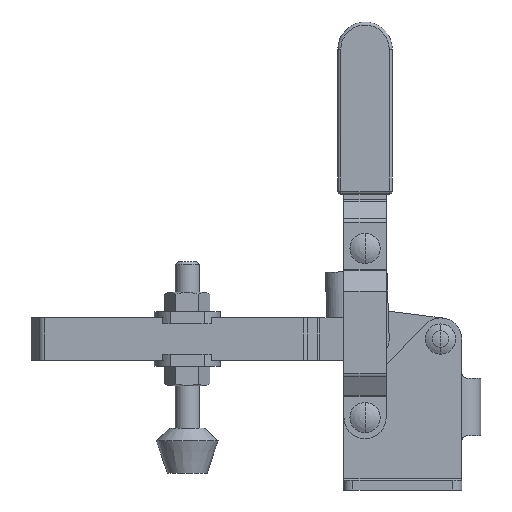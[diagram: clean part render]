
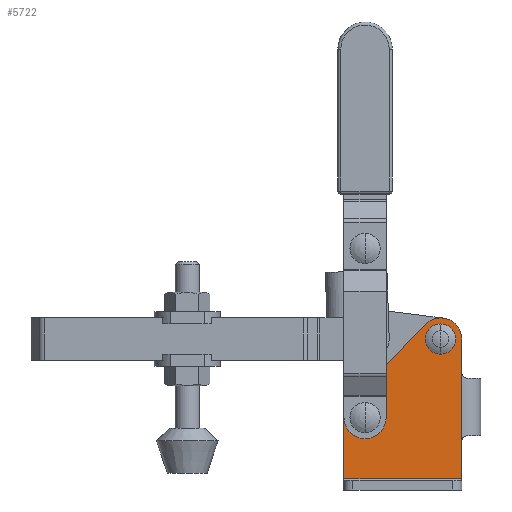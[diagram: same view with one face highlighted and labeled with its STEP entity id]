
A CAD part, front view. The second image highlights one B-rep face of the part: STEP entity #5722.
In plain terms, the highlighted planar face has unit normal (0, -1, 0).
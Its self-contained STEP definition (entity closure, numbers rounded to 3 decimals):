
#4632=CARTESIAN_POINT('Cartesian Point',(90.873,-6.4,33.411)) ;
#4635=CARTESIAN_POINT('Line Origine',(90.873,-6.4,84.581)) ;
#4639=CARTESIAN_POINT('Cartesian Point',(90.873,-6.4,10.411)) ;
#5347=CARTESIAN_POINT('Cartesian Point',(90.873,-6.4,-1.889)) ;
#5350=CARTESIAN_POINT('Line Origine',(40.607,-6.4,-1.889)) ;
#5354=CARTESIAN_POINT('Cartesian Point',(51.873,-6.4,-1.889)) ;
#5653=CARTESIAN_POINT('Axis2P3D Location',(-69.393,-6.4,37.411)) ;
#5659=CARTESIAN_POINT('Control Point',(90.873,-6.4,-1.889)) ;
#5660=CARTESIAN_POINT('Control Point',(90.873,-6.4,10.411)) ;
#5662=CARTESIAN_POINT('Line Origine',(90.873,-6.4,38.911)) ;
#5666=CARTESIAN_POINT('Cartesian Point',(90.873,-6.4,44.411)) ;
#5670=CARTESIAN_POINT('Control Point',(90.873,-6.4,44.411)) ;
#5671=CARTESIAN_POINT('Control Point',(90.873,-6.4,45.923)) ;
#5672=CARTESIAN_POINT('Control Point',(90.514,-6.4,47.435)) ;
#5673=CARTESIAN_POINT('Control Point',(89.796,-6.4,48.852)) ;
#5674=CARTESIAN_POINT('Control Point',(88.746,-6.4,50.079)) ;
#5675=CARTESIAN_POINT('Control Point',(87.422,-6.4,51.032)) ;
#5676=CARTESIAN_POINT('Control Point',(85.904,-6.4,51.643)) ;
#5677=CARTESIAN_POINT('Control Point',(84.29,-6.4,51.875)) ;
#5678=CARTESIAN_POINT('Control Point',(82.682,-6.4,51.717)) ;
#5679=CARTESIAN_POINT('Control Point',(81.182,-6.4,51.194)) ;
#5680=CARTESIAN_POINT('Control Point',(79.876,-6.4,50.353)) ;
#5681=CARTESIAN_POINT('Control Point',(78.828,-6.4,49.263)) ;
#5682=CARTESIAN_POINT('Cartesian Point',(78.828,-6.4,49.263)) ;
#5685=CARTESIAN_POINT('Line Origine',(66.328,-6.4,36.263)) ;
#5689=CARTESIAN_POINT('Cartesian Point',(53.828,-6.4,23.263)) ;
#5693=CARTESIAN_POINT('Control Point',(53.828,-6.4,23.263)) ;
#5694=CARTESIAN_POINT('Control Point',(53.49,-6.4,22.912)) ;
#5695=CARTESIAN_POINT('Control Point',(53.179,-6.4,22.534)) ;
#5696=CARTESIAN_POINT('Control Point',(52.897,-6.4,22.134)) ;
#5697=CARTESIAN_POINT('Control Point',(52.647,-6.4,21.712)) ;
#5698=CARTESIAN_POINT('Control Point',(52.429,-6.4,21.272)) ;
#5699=CARTESIAN_POINT('Control Point',(52.245,-6.4,20.816)) ;
#5700=CARTESIAN_POINT('Control Point',(52.097,-6.4,20.348)) ;
#5701=CARTESIAN_POINT('Control Point',(51.985,-6.4,19.87)) ;
#5702=CARTESIAN_POINT('Control Point',(51.911,-6.4,19.386)) ;
#5703=CARTESIAN_POINT('Control Point',(51.873,-6.4,18.898)) ;
#5704=CARTESIAN_POINT('Control Point',(51.873,-6.4,18.411)) ;
#5705=CARTESIAN_POINT('Cartesian Point',(51.873,-6.4,18.411)) ;
#5709=CARTESIAN_POINT('Control Point',(51.873,-6.4,-1.889)) ;
#5710=CARTESIAN_POINT('Control Point',(51.873,-6.4,18.411)) ;
#4636=DIRECTION('Vector Direction',(0.,0.,1.)) ;
#5351=DIRECTION('Vector Direction',(1.,0.,0.)) ;
#5654=DIRECTION('Axis2P3D Direction',(0.,-1.,0.)) ;
#5655=DIRECTION('Axis2P3D XDirection',(-1.,0.,0.)) ;
#5663=DIRECTION('Vector Direction',(0.,0.,1.)) ;
#5686=DIRECTION('Vector Direction',(0.693,0.,0.721)) ;
#5656=AXIS2_PLACEMENT_3D('Plane Axis2P3D',#5653,#5654,#5655) ;
#5713=ORIENTED_EDGE('Oriented Edge',*,*,#5356,.T.) ;
#5714=ORIENTED_EDGE('Oriented Edge',*,*,#5661,.T.) ;
#5715=ORIENTED_EDGE('Oriented Edge',*,*,#4641,.T.) ;
#5716=ORIENTED_EDGE('Oriented Edge',*,*,#5668,.T.) ;
#5717=ORIENTED_EDGE('Oriented Edge',*,*,#5684,.T.) ;
#5718=ORIENTED_EDGE('Oriented Edge',*,*,#5691,.F.) ;
#5719=ORIENTED_EDGE('Oriented Edge',*,*,#5707,.T.) ;
#5720=ORIENTED_EDGE('Oriented Edge',*,*,#5711,.F.) ;
#4637=VECTOR('Line Direction',#4636,1.) ;
#5352=VECTOR('Line Direction',#5351,1.) ;
#5664=VECTOR('Line Direction',#5663,1.) ;
#5687=VECTOR('Line Direction',#5686,1.) ;
#5722=ADVANCED_FACE('',(#5721),#5657,.T.) ;
#5658=B_SPLINE_CURVE_WITH_KNOTS('BSpline Curve',1,(#5659,#5660),.UNSPECIFIED.,.F.,.U.,(2,2),(0.,12.3),.UNSPECIFIED.) ;
#5669=B_SPLINE_CURVE_WITH_KNOTS('BSpline Curve',11,(#5670,#5671,#5672,#5673,#5674,#5675,#5676,#5677,#5678,#5679,#5680,#5681),.UNSPECIFIED.,.F.,.U.,(12,12),(0.,17.438),.UNSPECIFIED.) ;
#5692=B_SPLINE_CURVE_WITH_KNOTS('BSpline Curve',11,(#5693,#5694,#5695,#5696,#5697,#5698,#5699,#5700,#5701,#5702,#5703,#5704),.UNSPECIFIED.,.F.,.U.,(12,12),(0.,5.387),.UNSPECIFIED.) ;
#5708=B_SPLINE_CURVE_WITH_KNOTS('BSpline Curve',1,(#5709,#5710),.UNSPECIFIED.,.F.,.U.,(2,2),(0.,20.3),.UNSPECIFIED.) ;
#4641=EDGE_CURVE('',#4640,#4633,#4638,.T.) ;
#5356=EDGE_CURVE('',#5355,#5348,#5353,.T.) ;
#5661=EDGE_CURVE('',#5348,#4640,#5658,.T.) ;
#5668=EDGE_CURVE('',#4633,#5667,#5665,.T.) ;
#5684=EDGE_CURVE('',#5667,#5683,#5669,.T.) ;
#5691=EDGE_CURVE('',#5690,#5683,#5688,.T.) ;
#5707=EDGE_CURVE('',#5690,#5706,#5692,.T.) ;
#5711=EDGE_CURVE('',#5355,#5706,#5708,.T.) ;
#5712=EDGE_LOOP('Oriented Loop',(#5713,#5714,#5715,#5716,#5717,#5718,#5719,#5720)) ;
#5721=FACE_OUTER_BOUND('Face Bound',#5712,.T.) ;
#4638=LINE('Line',#4635,#4637) ;
#5353=LINE('Line',#5350,#5352) ;
#5665=LINE('Line',#5662,#5664) ;
#5688=LINE('Line',#5685,#5687) ;
#5657=PLANE('Plane',#5656) ;
#4633=VERTEX_POINT('Vertex Point',#4632) ;
#4640=VERTEX_POINT('Vertex Point',#4639) ;
#5348=VERTEX_POINT('Vertex Point',#5347) ;
#5355=VERTEX_POINT('Vertex Point',#5354) ;
#5667=VERTEX_POINT('Vertex Point',#5666) ;
#5683=VERTEX_POINT('Vertex Point',#5682) ;
#5690=VERTEX_POINT('Vertex Point',#5689) ;
#5706=VERTEX_POINT('Vertex Point',#5705) ;
